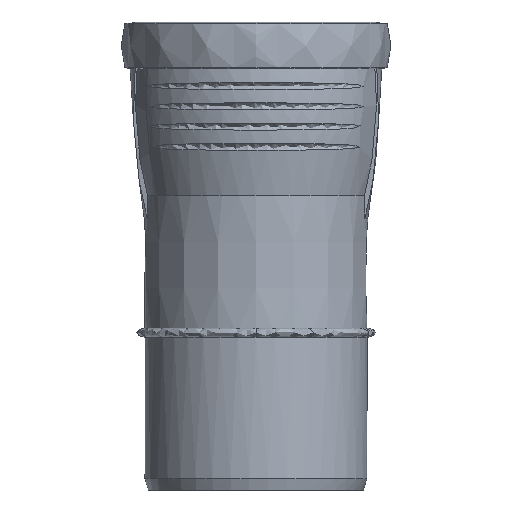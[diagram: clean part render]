
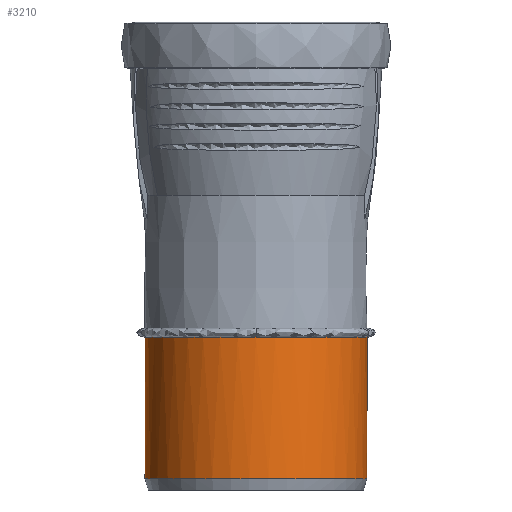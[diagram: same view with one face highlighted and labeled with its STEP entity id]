
A CAD part, left-side view. The second image highlights one B-rep face of the part: STEP entity #3210.
In plain terms, the highlighted cylindrical face has radius 45.1 mm (diameter 90.2 mm), a full revolution.
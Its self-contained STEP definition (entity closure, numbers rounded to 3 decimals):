
#41=CYLINDRICAL_SURFACE('',#3496,45.1);
#184=LINE('',#26564,#227);
#227=VECTOR('',#4069,45.1);
#424=CIRCLE('',#3484,45.1);
#425=CIRCLE('',#3485,45.1);
#430=CIRCLE('',#3493,45.1);
#431=CIRCLE('',#3494,45.1);
#606=FACE_OUTER_BOUND('',#804,.T.);
#804=EDGE_LOOP('',(#2772,#2773,#2774,#2775,#2776,#2777));
#1347=VERTEX_POINT('',#26541);
#1348=VERTEX_POINT('',#26543);
#1352=VERTEX_POINT('',#26556);
#1353=VERTEX_POINT('',#26557);
#1819=EDGE_CURVE('',#1348,#1347,#424,.T.);
#1820=EDGE_CURVE('',#1347,#1348,#425,.T.);
#1825=EDGE_CURVE('',#1352,#1353,#430,.T.);
#1826=EDGE_CURVE('',#1353,#1352,#431,.T.);
#1829=EDGE_CURVE('',#1348,#1352,#184,.T.);
#2772=ORIENTED_EDGE('',*,*,#1820,.T.);
#2773=ORIENTED_EDGE('',*,*,#1829,.T.);
#2774=ORIENTED_EDGE('',*,*,#1825,.T.);
#2775=ORIENTED_EDGE('',*,*,#1826,.T.);
#2776=ORIENTED_EDGE('',*,*,#1829,.F.);
#2777=ORIENTED_EDGE('',*,*,#1819,.T.);
#3210=ADVANCED_FACE('',(#606),#41,.T.);
#3484=AXIS2_PLACEMENT_3D('',#26544,#4041,#4042);
#3485=AXIS2_PLACEMENT_3D('',#26545,#4043,#4044);
#3493=AXIS2_PLACEMENT_3D('',#26558,#4059,#4060);
#3494=AXIS2_PLACEMENT_3D('',#26559,#4061,#4062);
#3496=AXIS2_PLACEMENT_3D('',#26563,#4067,#4068);
#4041=DIRECTION('center_axis',(0.,0.,
-1.));
#4042=DIRECTION('ref_axis',(-1.,0.,0.));
#4043=DIRECTION('center_axis',(0.,0.,
-1.));
#4044=DIRECTION('ref_axis',(-1.,0.,0.));
#4059=DIRECTION('center_axis',(0.,0.,1.));
#4060=DIRECTION('ref_axis',(-0.878,-0.479,0.));
#4061=DIRECTION('center_axis',(0.,0.,1.));
#4062=DIRECTION('ref_axis',(-0.878,-0.479,0.));
#4067=DIRECTION('center_axis',(0.,0.,1.));
#4068=DIRECTION('ref_axis',(-0.878,-0.479,0.));
#4069=DIRECTION('',(0.,0.,-1.));
#26541=CARTESIAN_POINT('',(-45.1,0.,-53.019));
#26543=CARTESIAN_POINT('',(39.579,21.622,-53.019));
#26544=CARTESIAN_POINT('Origin',(0.,0.,-53.019));
#26545=CARTESIAN_POINT('Origin',(0.,0.,-53.019));
#26556=CARTESIAN_POINT('',(39.579,21.622,-110.5));
#26557=CARTESIAN_POINT('',(-44.814,-5.073,-110.5));
#26558=CARTESIAN_POINT('Origin',(0.,0.,-110.5));
#26559=CARTESIAN_POINT('Origin',(0.,0.,-110.5));
#26563=CARTESIAN_POINT('Origin',(0.,0.,-82.125));
#26564=CARTESIAN_POINT('',(39.579,21.622,-82.125));
